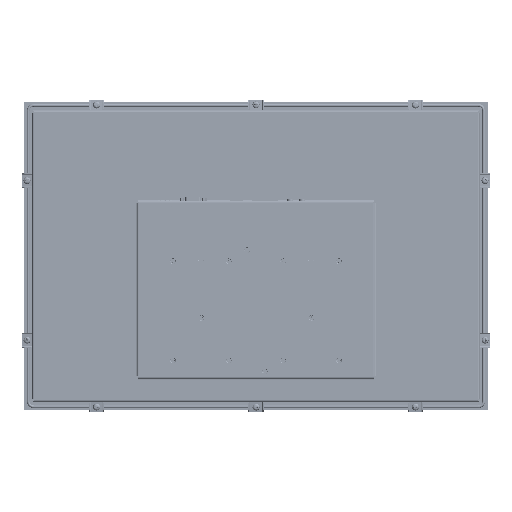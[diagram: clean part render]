
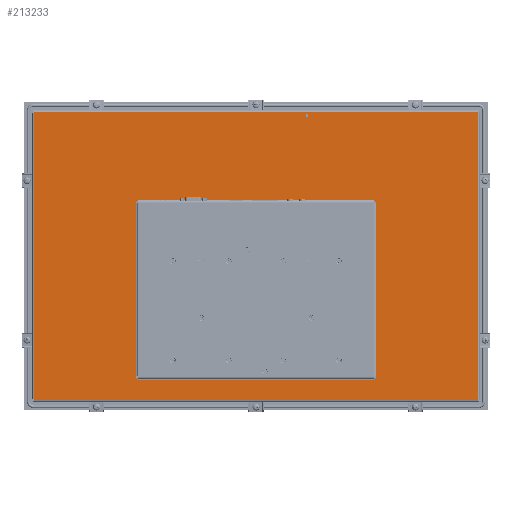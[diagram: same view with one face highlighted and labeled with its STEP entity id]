
A CAD part, front view. The second image highlights one B-rep face of the part: STEP entity #213233.
In plain terms, the highlighted planar face has unit normal (0, -1, 0).
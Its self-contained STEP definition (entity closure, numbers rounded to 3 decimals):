
#1884 = VECTOR ( 'NONE', #170061, 1000. ) ;
#2189 = CARTESIAN_POINT ( 'NONE',  ( -250.7, -10.6, 4.952 ) ) ;
#2706 = CARTESIAN_POINT ( 'NONE',  ( 133.25, -10.6, -134.548 ) ) ;
#2917 = CARTESIAN_POINT ( 'NONE',  ( -250.7, -10.6, 4.952 ) ) ;
#4245 = CARTESIAN_POINT ( 'NONE',  ( 0., -10.6, 4.952 ) ) ;
#8144 = EDGE_LOOP ( 'NONE', ( #228512, #15573, #168711, #174646, #216502, #186030, #231958, #202188 ) ) ;
#15573 = ORIENTED_EDGE ( 'NONE', *, *, #102190, .T. ) ;
#17729 = DIRECTION ( 'NONE',  ( -0.707, 0., 0.707 ) ) ;
#18726 = VECTOR ( 'NONE', #148726, 1000. ) ;
#19227 = DIRECTION ( 'NONE',  ( 0., 0., -1. ) ) ;
#19426 = CARTESIAN_POINT ( 'NONE',  ( 250.7, -10.6, 4.952 ) ) ;
#23093 = CARTESIAN_POINT ( 'NONE',  ( 135.25, -10.6, -132.548 ) ) ;
#24161 = LINE ( 'NONE', #62844, #75041 ) ;
#26829 = CARTESIAN_POINT ( 'NONE',  ( 250.7, -10.6, 167.652 ) ) ;
#30046 = LINE ( 'NONE', #215339, #223171 ) ;
#30578 = CARTESIAN_POINT ( 'NONE',  ( 0., -10.6, 167.652 ) ) ;
#31917 = LINE ( 'NONE', #92327, #220111 ) ;
#34290 = CARTESIAN_POINT ( 'NONE',  ( -133.25, -10.6, 67.952 ) ) ;
#35152 = DIRECTION ( 'NONE',  ( 0., 0., 1. ) ) ;
#35211 = CARTESIAN_POINT ( 'NONE',  ( 0., -10.6, -157.748 ) ) ;
#35530 = DIRECTION ( 'NONE',  ( 0., 0., -1. ) ) ;
#40048 = VERTEX_POINT ( 'NONE', #34290 ) ;
#50005 = VERTEX_POINT ( 'NONE', #108494 ) ;
#50572 = ORIENTED_EDGE ( 'NONE', *, *, #201363, .T. ) ;
#52851 = PLANE ( 'NONE',  #132481 ) ;
#55510 = VECTOR ( 'NONE', #19227, 1000. ) ;
#56902 = LINE ( 'NONE', #2917, #129444 ) ;
#58210 = CARTESIAN_POINT ( 'NONE',  ( 250.7, -10.6, -157.748 ) ) ;
#62844 = CARTESIAN_POINT ( 'NONE',  ( 136.375, -10.6, -131.423 ) ) ;
#64959 = VECTOR ( 'NONE', #204744, 1000. ) ;
#68928 = ORIENTED_EDGE ( 'NONE', *, *, #187781, .T. ) ;
#70381 = EDGE_CURVE ( 'NONE', #100618, #239550, #88620, .T. ) ;
#73372 = FACE_BOUND ( 'NONE', #230301, .T. ) ;
#75041 = VECTOR ( 'NONE', #191205, 1000. ) ;
#76192 = EDGE_CURVE ( 'NONE', #163146, #148425, #111160, .T. ) ;
#78141 = DIRECTION ( 'NONE',  ( 0., 1., 0. ) ) ;
#78538 = CARTESIAN_POINT ( 'NONE',  ( 135.25, -10.6, 65.952 ) ) ;
#78843 = VERTEX_POINT ( 'NONE', #96505 ) ;
#78992 = LINE ( 'NONE', #152971, #153760 ) ;
#80575 = LINE ( 'NONE', #227251, #88481 ) ;
#85243 = CARTESIAN_POINT ( 'NONE',  ( -250.7, -10.6, -156.777 ) ) ;
#85376 = EDGE_CURVE ( 'NONE', #148425, #78843, #31917, .T. ) ;
#88481 = VECTOR ( 'NONE', #99924, 1000. ) ;
#88620 = LINE ( 'NONE', #30578, #139000 ) ;
#89024 = ORIENTED_EDGE ( 'NONE', *, *, #206722, .T. ) ;
#89769 = DIRECTION ( 'NONE',  ( -1., 0., 0. ) ) ;
#90407 = VERTEX_POINT ( 'NONE', #161713 ) ;
#92327 = CARTESIAN_POINT ( 'NONE',  ( -250.7, -10.6, 4.952 ) ) ;
#92726 = CARTESIAN_POINT ( 'NONE',  ( -136.375, -10.6, -131.423 ) ) ;
#94372 = EDGE_CURVE ( 'NONE', #187039, #40048, #78992, .T. ) ;
#95520 = EDGE_CURVE ( 'NONE', #117458, #50005, #80575, .T. ) ;
#96088 = CARTESIAN_POINT ( 'NONE',  ( 98.125, -10.6, 103.077 ) ) ;
#96118 = DIRECTION ( 'NONE',  ( 0., 0., -1. ) ) ;
#96505 = CARTESIAN_POINT ( 'NONE',  ( -250.7, -10.6, -157.748 ) ) ;
#97942 = VECTOR ( 'NONE', #145319, 1000. ) ;
#98249 = EDGE_CURVE ( 'NONE', #50005, #108054, #187215, .T. ) ;
#99924 = DIRECTION ( 'NONE',  ( -1., 0., 0. ) ) ;
#100618 = VERTEX_POINT ( 'NONE', #26829 ) ;
#102190 = EDGE_CURVE ( 'NONE', #219910, #139585, #30046, .T. ) ;
#106240 = DIRECTION ( 'NONE',  ( 0., 0., 1. ) ) ;
#107182 = EDGE_CURVE ( 'NONE', #239550, #163146, #56902, .T. ) ;
#108054 = VERTEX_POINT ( 'NONE', #206761 ) ;
#108494 = CARTESIAN_POINT ( 'NONE',  ( -133.25, -10.6, -134.548 ) ) ;
#108590 = EDGE_CURVE ( 'NONE', #78843, #219910, #125952, .T. ) ;
#111160 = LINE ( 'NONE', #2189, #18726 ) ;
#111276 = VERTEX_POINT ( 'NONE', #23093 ) ;
#116031 = ORIENTED_EDGE ( 'NONE', *, *, #229165, .T. ) ;
#117458 = VERTEX_POINT ( 'NONE', #2706 ) ;
#118313 = VECTOR ( 'NONE', #237053, 1000. ) ;
#119013 = CARTESIAN_POINT ( 'NONE',  ( 250.7, -10.6, 166.681 ) ) ;
#122117 = VERTEX_POINT ( 'NONE', #119013 ) ;
#125952 = LINE ( 'NONE', #35211, #97942 ) ;
#127093 = CARTESIAN_POINT ( 'NONE',  ( 250.7, -10.6, 4.952 ) ) ;
#128697 = DIRECTION ( 'NONE',  ( 0.707, 0., 0.707 ) ) ;
#128967 = CARTESIAN_POINT ( 'NONE',  ( -135.25, -10.6, 65.952 ) ) ;
#129444 = VECTOR ( 'NONE', #96118, 1000. ) ;
#132481 = AXIS2_PLACEMENT_3D ( 'NONE', #4245, #78141, #189592 ) ;
#139000 = VECTOR ( 'NONE', #89769, 1000. ) ;
#139034 = ORIENTED_EDGE ( 'NONE', *, *, #98249, .T. ) ;
#139585 = VERTEX_POINT ( 'NONE', #185944 ) ;
#145319 = DIRECTION ( 'NONE',  ( 1., 0., 0. ) ) ;
#147533 = VECTOR ( 'NONE', #17729, 1000. ) ;
#148425 = VERTEX_POINT ( 'NONE', #85243 ) ;
#148726 = DIRECTION ( 'NONE',  ( 0., 0., -1. ) ) ;
#149655 = FACE_OUTER_BOUND ( 'NONE', #8144, .T. ) ;
#152971 = CARTESIAN_POINT ( 'NONE',  ( -98.125, -10.6, 103.077 ) ) ;
#153760 = VECTOR ( 'NONE', #128697, 1000. ) ;
#156027 = CARTESIAN_POINT ( 'NONE',  ( -135.25, -10.6, 67.952 ) ) ;
#160340 = ORIENTED_EDGE ( 'NONE', *, *, #95520, .T. ) ;
#161713 = CARTESIAN_POINT ( 'NONE',  ( 133.25, -10.6, 67.952 ) ) ;
#163146 = VERTEX_POINT ( 'NONE', #169134 ) ;
#163755 = VERTEX_POINT ( 'NONE', #78538 ) ;
#168711 = ORIENTED_EDGE ( 'NONE', *, *, #169457, .T. ) ;
#169134 = CARTESIAN_POINT ( 'NONE',  ( -250.7, -10.6, 166.681 ) ) ;
#169457 = EDGE_CURVE ( 'NONE', #139585, #122117, #185367, .T. ) ;
#170061 = DIRECTION ( 'NONE',  ( 0.707, 0., -0.707 ) ) ;
#174646 = ORIENTED_EDGE ( 'NONE', *, *, #218205, .T. ) ;
#179280 = EDGE_CURVE ( 'NONE', #90407, #163755, #225804, .T. ) ;
#182390 = LINE ( 'NONE', #238255, #118313 ) ;
#183933 = LINE ( 'NONE', #203310, #55510 ) ;
#185230 = LINE ( 'NONE', #127093, #199730 ) ;
#185367 = LINE ( 'NONE', #19426, #64959 ) ;
#185944 = CARTESIAN_POINT ( 'NONE',  ( 250.7, -10.6, -156.777 ) ) ;
#186030 = ORIENTED_EDGE ( 'NONE', *, *, #107182, .T. ) ;
#187039 = VERTEX_POINT ( 'NONE', #128967 ) ;
#187215 = LINE ( 'NONE', #92726, #147533 ) ;
#187781 = EDGE_CURVE ( 'NONE', #163755, #111276, #183933, .T. ) ;
#188948 = ORIENTED_EDGE ( 'NONE', *, *, #179280, .T. ) ;
#189592 = DIRECTION ( 'NONE',  ( -1., 0., 0. ) ) ;
#191205 = DIRECTION ( 'NONE',  ( -0.707, 0., -0.707 ) ) ;
#199730 = VECTOR ( 'NONE', #35152, 1000. ) ;
#201363 = EDGE_CURVE ( 'NONE', #108054, #187039, #182390, .T. ) ;
#202188 = ORIENTED_EDGE ( 'NONE', *, *, #85376, .T. ) ;
#203310 = CARTESIAN_POINT ( 'NONE',  ( 135.25, -10.6, -134.548 ) ) ;
#204744 = DIRECTION ( 'NONE',  ( 0., 0., 1. ) ) ;
#206722 = EDGE_CURVE ( 'NONE', #40048, #90407, #228784, .T. ) ;
#206761 = CARTESIAN_POINT ( 'NONE',  ( -135.25, -10.6, -132.548 ) ) ;
#213233 = ADVANCED_FACE ( 'NONE', ( #149655, #73372 ), #52851, .F. ) ;
#215339 = CARTESIAN_POINT ( 'NONE',  ( 250.7, -10.6, 4.952 ) ) ;
#216502 = ORIENTED_EDGE ( 'NONE', *, *, #70381, .T. ) ;
#218205 = EDGE_CURVE ( 'NONE', #122117, #100618, #185230, .T. ) ;
#219910 = VERTEX_POINT ( 'NONE', #58210 ) ;
#220111 = VECTOR ( 'NONE', #35530, 1000. ) ;
#223171 = VECTOR ( 'NONE', #106240, 1000. ) ;
#225190 = VECTOR ( 'NONE', #229976, 1000. ) ;
#225804 = LINE ( 'NONE', #96088, #1884 ) ;
#227032 = ORIENTED_EDGE ( 'NONE', *, *, #94372, .T. ) ;
#227251 = CARTESIAN_POINT ( 'NONE',  ( -135.25, -10.6, -134.548 ) ) ;
#228512 = ORIENTED_EDGE ( 'NONE', *, *, #108590, .T. ) ;
#228784 = LINE ( 'NONE', #156027, #225190 ) ;
#229165 = EDGE_CURVE ( 'NONE', #111276, #117458, #24161, .T. ) ;
#229976 = DIRECTION ( 'NONE',  ( 1., 0., 0. ) ) ;
#230301 = EDGE_LOOP ( 'NONE', ( #89024, #188948, #68928, #116031, #160340, #139034, #50572, #227032 ) ) ;
#231958 = ORIENTED_EDGE ( 'NONE', *, *, #76192, .T. ) ;
#233341 = CARTESIAN_POINT ( 'NONE',  ( -250.7, -10.6, 167.652 ) ) ;
#237053 = DIRECTION ( 'NONE',  ( 0., 0., 1. ) ) ;
#238255 = CARTESIAN_POINT ( 'NONE',  ( -135.25, -10.6, -134.548 ) ) ;
#239550 = VERTEX_POINT ( 'NONE', #233341 ) ;
